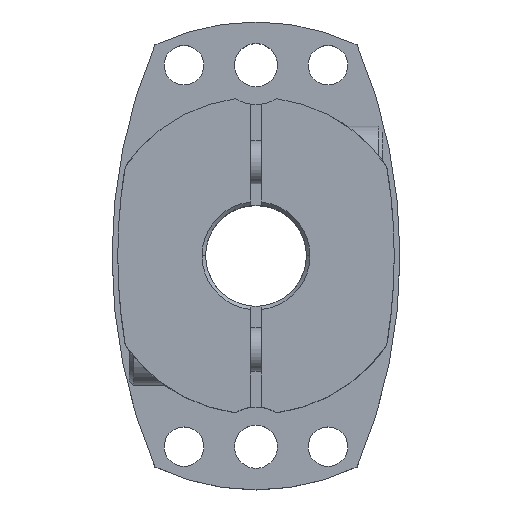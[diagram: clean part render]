
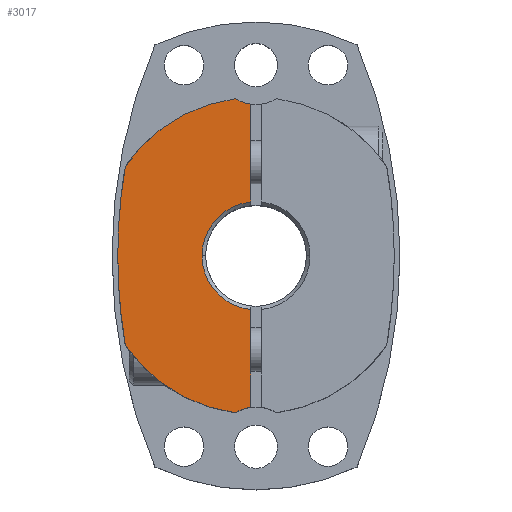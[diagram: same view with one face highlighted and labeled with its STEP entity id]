
A CAD part, top view. The second image highlights one B-rep face of the part: STEP entity #3017.
In plain terms, the highlighted planar face has unit normal (0, 0, 1).
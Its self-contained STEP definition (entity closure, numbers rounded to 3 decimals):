
#412=CARTESIAN_POINT('',(-7.5,0.,21.0));
#413=VERTEX_POINT('',#412);
#421=CARTESIAN_POINT('',(-0.75,7.462,21.0));
#422=VERTEX_POINT('',#421);
#436=CARTESIAN_POINT('',(0.,0.0,21.0));
#437=DIRECTION('',(0.0,0.0,1.0));
#438=DIRECTION('',(-1.0,0.0,0.0));
#439=AXIS2_PLACEMENT_3D('',#436,#437,#438);
#440=CIRCLE('',#439,7.5);
#441=EDGE_CURVE('',#422,#413,#440,.T.);
#673=CARTESIAN_POINT('',(-19.2,0.,21.0));
#674=VERTEX_POINT('',#673);
#683=CARTESIAN_POINT('',(-18.151,12.431,21.0));
#684=VERTEX_POINT('',#683);
#685=CARTESIAN_POINT('',(55.,0.,21.0));
#686=DIRECTION('',(0.0,0.0,-1.0));
#687=DIRECTION('',(1.0,0.0,0.0));
#688=AXIS2_PLACEMENT_3D('',#685,#686,#687);
#689=CIRCLE('',#688,74.2);
#690=EDGE_CURVE('',#674,#684,#689,.T.);
#1939=CARTESIAN_POINT('',(-2.875,-21.811,21.0));
#1940=VERTEX_POINT('',#1939);
#1947=CARTESIAN_POINT('',(-18.151,-12.431,21.0));
#1948=VERTEX_POINT('',#1947);
#1949=CARTESIAN_POINT('',(0.,0.,21.0));
#1950=DIRECTION('',(0.0,0.0,-1.0));
#1951=DIRECTION('',(1.0,0.0,0.0));
#1952=AXIS2_PLACEMENT_3D('',#1949,#1950,#1951);
#1953=CIRCLE('',#1952,22.);
#1954=EDGE_CURVE('',#1940,#1948,#1953,.T.);
#2563=CARTESIAN_POINT('',(55.,0.,21.0));
#2564=DIRECTION('',(0.0,0.0,-1.0));
#2565=DIRECTION('',(1.0,0.0,0.0));
#2566=AXIS2_PLACEMENT_3D('',#2563,#2564,#2565);
#2567=CIRCLE('',#2566,74.2);
#2568=EDGE_CURVE('',#1948,#674,#2567,.T.);
#2701=CARTESIAN_POINT('',(-2.875,21.811,21.0));
#2702=VERTEX_POINT('',#2701);
#2711=CARTESIAN_POINT('',(-0.75,21.051,21.0));
#2712=VERTEX_POINT('',#2711);
#2713=CARTESIAN_POINT('',(0.,26.5,21.0));
#2714=DIRECTION('',(0.0,0.0,-1.0));
#2715=DIRECTION('',(1.0,0.0,0.0));
#2716=AXIS2_PLACEMENT_3D('',#2713,#2714,#2715);
#2717=CIRCLE('',#2716,5.5);
#2718=EDGE_CURVE('',#2712,#2702,#2717,.T.);
#2860=CARTESIAN_POINT('',(-0.75,-21.051,21.0));
#2861=VERTEX_POINT('',#2860);
#2870=CARTESIAN_POINT('',(0.,-26.5,21.0));
#2871=DIRECTION('',(0.0,0.0,-1.0));
#2872=DIRECTION('',(1.0,0.0,0.0));
#2873=AXIS2_PLACEMENT_3D('',#2870,#2871,#2872);
#2874=CIRCLE('',#2873,5.5);
#2875=EDGE_CURVE('',#1940,#2861,#2874,.T.);
#2960=CARTESIAN_POINT('',(-0.75,7.462,21.0));
#2961=DIRECTION('',(0.0,1.0,0.0));
#2962=VECTOR('',#2961,13.589);
#2963=LINE('',#2960,#2962);
#2964=EDGE_CURVE('',#422,#2712,#2963,.T.);
#2981=CARTESIAN_POINT('',(0.,0.,21.0));
#2982=DIRECTION('',(0.0,0.0,1.0));
#2983=DIRECTION('',(1.0,0.0,0.0));
#2984=AXIS2_PLACEMENT_3D('',#2981,#2982,#2983);
#2985=PLANE('',#2984);
#2986=ORIENTED_EDGE('',*,*,#2718,.T.);
#2987=CARTESIAN_POINT('',(0.,0.,21.0));
#2988=DIRECTION('',(0.0,0.0,-1.0));
#2989=DIRECTION('',(1.0,0.0,0.0));
#2990=AXIS2_PLACEMENT_3D('',#2987,#2988,#2989);
#2991=CIRCLE('',#2990,22.);
#2992=EDGE_CURVE('',#684,#2702,#2991,.T.);
#2993=ORIENTED_EDGE('',*,*,#2992,.F.);
#2994=ORIENTED_EDGE('',*,*,#690,.F.);
#2995=ORIENTED_EDGE('',*,*,#2568,.F.);
#2996=ORIENTED_EDGE('',*,*,#1954,.F.);
#2997=ORIENTED_EDGE('',*,*,#2875,.T.);
#2998=CARTESIAN_POINT('',(-0.75,-7.462,21.0));
#2999=VERTEX_POINT('',#2998);
#3000=CARTESIAN_POINT('',(-0.75,-21.051,21.0));
#3001=DIRECTION('',(0.0,1.0,0.0));
#3002=VECTOR('',#3001,13.589);
#3003=LINE('',#3000,#3002);
#3004=EDGE_CURVE('',#2861,#2999,#3003,.T.);
#3005=ORIENTED_EDGE('',*,*,#3004,.T.);
#3006=CARTESIAN_POINT('',(0.,0.0,21.0));
#3007=DIRECTION('',(0.0,0.0,1.0));
#3008=DIRECTION('',(-1.0,0.0,0.0));
#3009=AXIS2_PLACEMENT_3D('',#3006,#3007,#3008);
#3010=CIRCLE('',#3009,7.5);
#3011=EDGE_CURVE('',#413,#2999,#3010,.T.);
#3012=ORIENTED_EDGE('',*,*,#3011,.F.);
#3013=ORIENTED_EDGE('',*,*,#441,.F.);
#3014=ORIENTED_EDGE('',*,*,#2964,.T.);
#3015=EDGE_LOOP('',(#2986,#2993,#2994,#2995,#2996,#2997,#3005,#3012,#3013,#3014));
#3016=FACE_OUTER_BOUND('',#3015,.T.);
#3017=ADVANCED_FACE('',(#3016),#2985,.T.);
